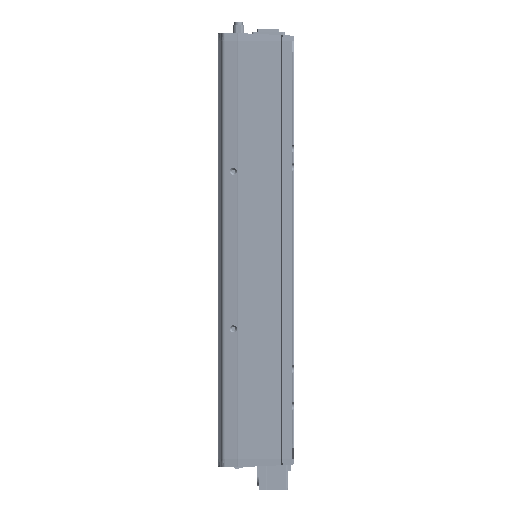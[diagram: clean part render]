
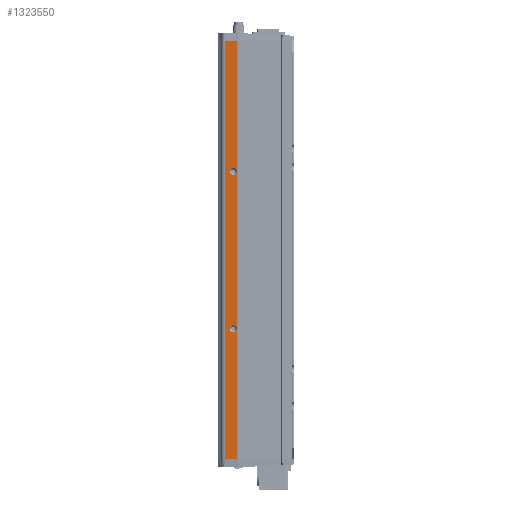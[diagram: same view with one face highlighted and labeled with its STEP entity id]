
A CAD part, left-side view. The second image highlights one B-rep face of the part: STEP entity #1323550.
In plain terms, the highlighted planar face has unit normal (-0.995, 0.104, 0).
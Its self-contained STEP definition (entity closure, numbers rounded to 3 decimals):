
#1302750=CARTESIAN_POINT('',(1975.16,76.808,431.756
));
#1302760=VERTEX_POINT('',#1302750);
#1302790=CARTESIAN_POINT('',(1967.087,0.,431.756));
#1302800=DIRECTION('',(-0.105,-0.995,0.));
#1302810=VECTOR('',#1302800,1.);
#1302820=LINE('',#1302790,#1302810);
#1302830=CARTESIAN_POINT('',(1976.316,87.804,
431.756));
#1302840=VERTEX_POINT('',#1302830);
#1302850=EDGE_CURVE('',#1302840,#1302760,#1302820,.T.);
#1313560=CARTESIAN_POINT('',(1976.316,87.804,46.756
));
#1313570=VERTEX_POINT('',#1313560);
#1313600=CARTESIAN_POINT('',(1967.087,0.,46.756));
#1313610=DIRECTION('',(0.105,0.995,0.));
#1313620=VECTOR('',#1313610,1.);
#1313630=LINE('',#1313600,#1313620);
#1313640=CARTESIAN_POINT('',(1975.16,76.808,46.756)
);
#1313650=VERTEX_POINT('',#1313640);
#1313660=EDGE_CURVE('',#1313650,#1313570,#1313630,.T.);
#1322400=CARTESIAN_POINT('',(1976.316,87.804,
373.756));
#1322410=DIRECTION('',(0.,0.,-1.));
#1322420=VECTOR('',#1322410,1.);
#1322430=LINE('',#1322400,#1322420);
#1322440=EDGE_CURVE('',#1302840,#1313570,#1322430,.T.);
#1322490=CARTESIAN_POINT('',(1976.603,90.531,122.9));
#1322500=DIRECTION('',(0.995,-0.105,0.));
#1322510=DIRECTION('',(0.105,0.995,0.));
#1322520=AXIS2_PLACEMENT_3D('',#1322490,#1322500,#1322510);
#1322530=PLANE('',#1322520);
#1322540=ORIENTED_EDGE('',*,*,#1302850,.F.);
#1322550=CARTESIAN_POINT('',(1975.16,76.808,0.));
#1322560=DIRECTION('',(0.,0.,1.));
#1322570=VECTOR('',#1322560,1.);
#1322580=LINE('',#1322550,#1322570);
#1322590=CARTESIAN_POINT('',(1975.16,76.808,
312.64));
#1322600=VERTEX_POINT('',#1322590);
#1322610=EDGE_CURVE('',#1322600,#1302760,#1322580,.T.);
#1322620=ORIENTED_EDGE('',*,*,#1322610,.T.);
#1322630=CARTESIAN_POINT('',(1975.488,79.927,308.506));
#1322640=CARTESIAN_POINT('',(1975.524,80.271,308.506
));
#1322650=CARTESIAN_POINT('',(1975.56,80.609,
308.56));
#1322660=CARTESIAN_POINT('',(1975.648,81.447,
308.834));
#1322670=CARTESIAN_POINT('',(1975.696,81.909,
309.128));
#1322680=CARTESIAN_POINT('',(1975.774,82.651,
309.912));
#1322690=CARTESIAN_POINT('',(1975.802,82.917,
310.388));
#1322700=CARTESIAN_POINT('',(1975.832,83.198,
311.431));
#1322710=CARTESIAN_POINT('',(1975.833,83.206,
311.978));
#1322720=CARTESIAN_POINT('',(1975.807,82.957,
313.031));
#1322730=CARTESIAN_POINT('',(1975.78,82.705,
313.518));
#1322740=CARTESIAN_POINT('',(1975.704,81.983,
314.326));
#1322750=CARTESIAN_POINT('',(1975.656,81.528,
314.635));
#1322760=CARTESIAN_POINT('',(1975.549,80.507,
314.998));
#1322770=CARTESIAN_POINT('',(1975.492,79.96,
315.052));
#1322780=CARTESIAN_POINT('',(1975.379,78.892,
314.882));
#1322790=CARTESIAN_POINT('',(1975.326,78.386,
314.667));
#1322800=CARTESIAN_POINT('',(1975.236,77.531,
314.009));
#1322810=CARTESIAN_POINT('',(1975.2,77.189,
313.578));
#1322820=CARTESIAN_POINT('',(1975.154,76.749,
312.592));
#1322830=CARTESIAN_POINT('',(1975.144,76.654,
312.048));
#1322840=CARTESIAN_POINT('',(1975.153,76.736,
310.97));
#1322850=CARTESIAN_POINT('',(1975.171,76.913,
310.446));
#1322860=CARTESIAN_POINT('',(1975.233,77.499,
309.534));
#1322870=CARTESIAN_POINT('',(1975.276,77.905,
309.159));
#1322880=CARTESIAN_POINT('',(1975.376,78.857,
308.639));
#1322890=CARTESIAN_POINT('',(1975.432,79.39,
308.506));
#1322900=CARTESIAN_POINT('',(1975.488,79.927,308.506));
#1322910=B_SPLINE_CURVE_WITH_KNOTS('',3,(#1322630,#1322640,#1322650,
#1322660,#1322670,#1322680,#1322690,#1322700,#1322710,#1322720,#1322730,
#1322740,#1322750,#1322760,#1322770,#1322780,#1322790,#1322800,#1322810,
#1322820,#1322830,#1322840,#1322850,#1322860,#1322870,#1322880,#1322890,
#1322900),.UNSPECIFIED.,.T.,.F.,(1,3,2,2,2,2,2,2,2,2,2,2,2,2,3,1),(
-1.239,0.,0.794,2.07,3.358,
4.651,5.945,7.228,8.487,
9.712,10.909,12.09,13.278,
14.488,15.727,16.521),.UNSPECIFIED.);
#1322920=CARTESIAN_POINT('',(1975.519,80.221,
314.992));
#1322930=VERTEX_POINT('',#1322920);
#1322940=EDGE_CURVE('',#1322930,#1322600,#1322910,.T.);
#1322950=ORIENTED_EDGE('',*,*,#1322940,.T.);
#1322960=CARTESIAN_POINT('',(1975.488,79.927,308.506));
#1322970=VERTEX_POINT('',#1322960);
#1322980=EDGE_CURVE('',#1322970,#1322930,#1322910,.T.);
#1322990=ORIENTED_EDGE('',*,*,#1322980,.T.);
#1323000=CARTESIAN_POINT('',(1975.16,76.808,
310.871));
#1323010=VERTEX_POINT('',#1323000);
#1323020=EDGE_CURVE('',#1323010,#1322970,#1322910,.T.);
#1323030=ORIENTED_EDGE('',*,*,#1323020,.T.);
#1323040=CARTESIAN_POINT('',(1975.16,76.808,
167.64));
#1323050=VERTEX_POINT('',#1323040);
#1323060=EDGE_CURVE('',#1323050,#1323010,#1322580,.T.);
#1323070=ORIENTED_EDGE('',*,*,#1323060,.T.);
#1323080=CARTESIAN_POINT('',(1975.488,79.927,163.506));
#1323090=CARTESIAN_POINT('',(1975.524,80.271,163.506
));
#1323100=CARTESIAN_POINT('',(1975.56,80.609,
163.56));
#1323110=CARTESIAN_POINT('',(1975.648,81.447,
163.834));
#1323120=CARTESIAN_POINT('',(1975.696,81.909,
164.128));
#1323130=CARTESIAN_POINT('',(1975.774,82.651,
164.912));
#1323140=CARTESIAN_POINT('',(1975.802,82.917,
165.388));
#1323150=CARTESIAN_POINT('',(1975.832,83.198,
166.431));
#1323160=CARTESIAN_POINT('',(1975.833,83.206,
166.978));
#1323170=CARTESIAN_POINT('',(1975.807,82.957,
168.031));
#1323180=CARTESIAN_POINT('',(1975.78,82.705,
168.518));
#1323190=CARTESIAN_POINT('',(1975.704,81.983,
169.326));
#1323200=CARTESIAN_POINT('',(1975.656,81.528,
169.635));
#1323210=CARTESIAN_POINT('',(1975.549,80.507,
169.998));
#1323220=CARTESIAN_POINT('',(1975.492,79.96,
170.052));
#1323230=CARTESIAN_POINT('',(1975.379,78.892,
169.882));
#1323240=CARTESIAN_POINT('',(1975.326,78.386,
169.667));
#1323250=CARTESIAN_POINT('',(1975.236,77.531,
169.009));
#1323260=CARTESIAN_POINT('',(1975.2,77.189,
168.578));
#1323270=CARTESIAN_POINT('',(1975.154,76.749,
167.592));
#1323280=CARTESIAN_POINT('',(1975.144,76.654,
167.048));
#1323290=CARTESIAN_POINT('',(1975.153,76.736,
165.97));
#1323300=CARTESIAN_POINT('',(1975.171,76.913,
165.446));
#1323310=CARTESIAN_POINT('',(1975.233,77.499,
164.534));
#1323320=CARTESIAN_POINT('',(1975.276,77.905,
164.159));
#1323330=CARTESIAN_POINT('',(1975.376,78.857,
163.639));
#1323340=CARTESIAN_POINT('',(1975.432,79.39,
163.506));
#1323350=CARTESIAN_POINT('',(1975.488,79.927,163.506));
#1323360=B_SPLINE_CURVE_WITH_KNOTS('',3,(#1323080,#1323090,#1323100,
#1323110,#1323120,#1323130,#1323140,#1323150,#1323160,#1323170,#1323180,
#1323190,#1323200,#1323210,#1323220,#1323230,#1323240,#1323250,#1323260,
#1323270,#1323280,#1323290,#1323300,#1323310,#1323320,#1323330,#1323340,
#1323350),.UNSPECIFIED.,.T.,.F.,(1,3,2,2,2,2,2,2,2,2,2,2,2,2,3,1),(
-1.239,0.,0.794,2.07,3.358
,4.651,5.945,7.228,8.487,
9.712,10.909,12.09,13.278,
14.488,15.727,16.521),.UNSPECIFIED.);
#1323370=CARTESIAN_POINT('',(1975.519,80.221,
169.992));
#1323380=VERTEX_POINT('',#1323370);
#1323390=EDGE_CURVE('',#1323380,#1323050,#1323360,.T.);
#1323400=ORIENTED_EDGE('',*,*,#1323390,.T.);
#1323410=CARTESIAN_POINT('',(1975.488,79.927,
163.506));
#1323420=VERTEX_POINT('',#1323410);
#1323430=EDGE_CURVE('',#1323420,#1323380,#1323360,.T.);
#1323440=ORIENTED_EDGE('',*,*,#1323430,.T.);
#1323450=CARTESIAN_POINT('',(1975.16,76.808,
165.871));
#1323460=VERTEX_POINT('',#1323450);
#1323470=EDGE_CURVE('',#1323460,#1323420,#1323360,.T.);
#1323480=ORIENTED_EDGE('',*,*,#1323470,.T.);
#1323490=EDGE_CURVE('',#1313650,#1323460,#1322580,.T.);
#1323500=ORIENTED_EDGE('',*,*,#1323490,.T.);
#1323510=ORIENTED_EDGE('',*,*,#1313660,.F.);
#1323520=ORIENTED_EDGE('',*,*,#1322440,.T.);
#1323530=EDGE_LOOP('',(#1323520,#1323510,#1323500,#1323480,#1323440,
#1323400,#1323070,#1323030,#1322990,#1322950,#1322620,#1322540));
#1323540=FACE_OUTER_BOUND('',#1323530,.T.);
#1323550=ADVANCED_FACE('',(#1323540),#1322530,.F.);
